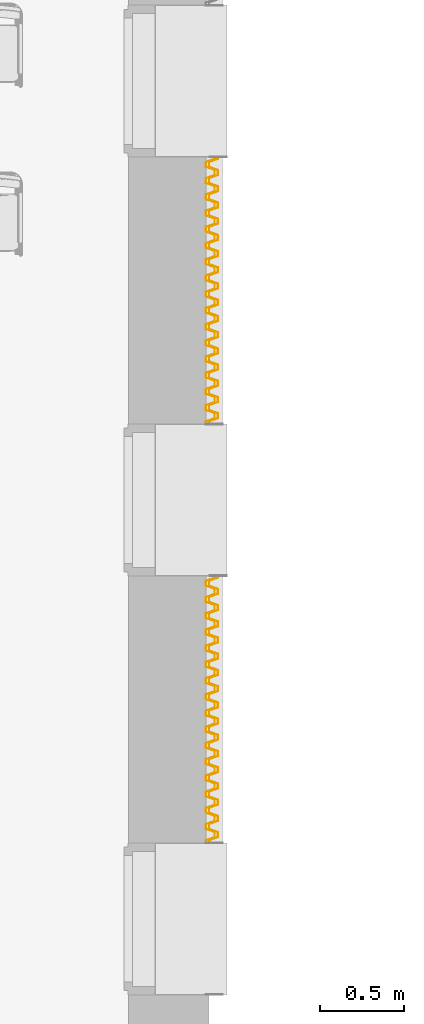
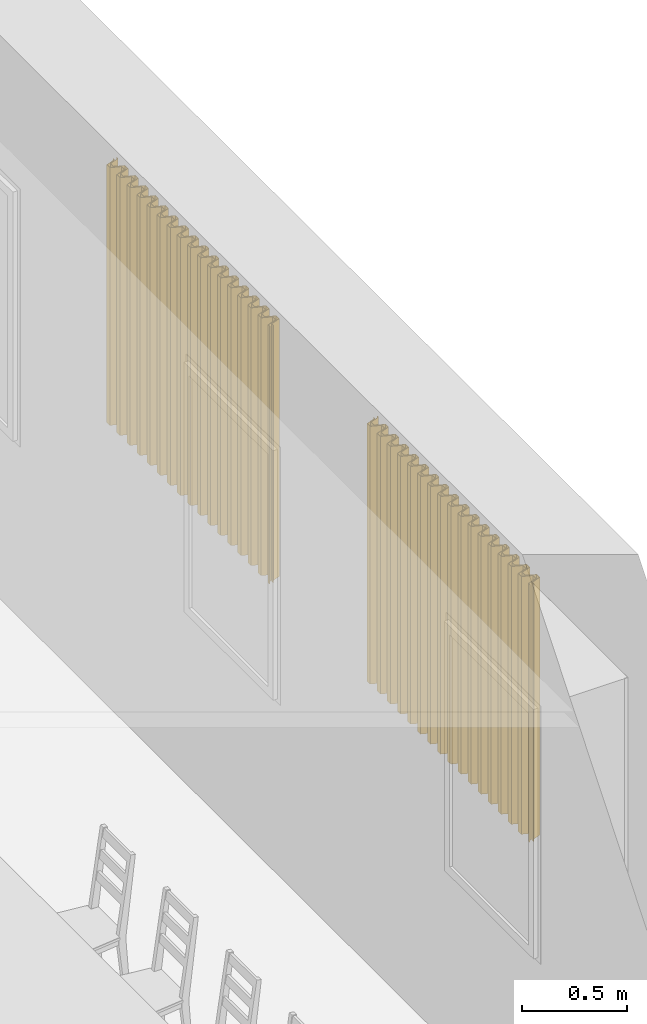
# One storey, part 82 of 91: 4 coverings.
"""IFC2X3 building model written with IfcOpenShell, lengths in metres."""

from ifc_helpers import new_model, entity, si_unit, converted_unit, derived_unit, money_unit, direction, frame, origin_with_axes, place, context, subcontext, project, spatial, faceted_brep, source, transform, mapped, material, type_object, element, save


model = new_model("IFC2X3")

# Units and contexts
model_context = context("Model", 3, precision=1e-05, world=origin_with_axes(), true_north=direction((0.0, 1.0)))
body_context = subcontext(model_context, "Body", "Model", "MODEL_VIEW")
ifc_project = project(units=[si_unit("LENGTHUNIT", "METRE"), si_unit("AREAUNIT", "SQUARE_METRE"), si_unit("VOLUMEUNIT", "CUBIC_METRE"), converted_unit("PLANEANGLEUNIT", "DEGREE", entity("IfcPlaneAngleMeasure", 0.0174532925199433), si_unit("PLANEANGLEUNIT", "RADIAN"), dimensions=[0, 0, 0, 0, 0, 0, 0]), money_unit("EUR"), converted_unit("TIMEUNIT", "Year", entity("IfcTimeMeasure", 31557600.0), si_unit("TIMEUNIT", "SECOND"), dimensions=[0, 0, 1, 0, 0, 0, 0]), si_unit("MASSUNIT", "GRAM", prefix="KILO"), si_unit("THERMODYNAMICTEMPERATUREUNIT", "DEGREE_CELSIUS"), si_unit("LUMINOUSINTENSITYUNIT", "LUMEN"), si_unit("ENERGYUNIT", "JOULE", prefix="MEGA"), derived_unit("THERMALCONDUCTANCEUNIT", [(si_unit("POWERUNIT", "WATT"), 1), (si_unit("LENGTHUNIT", "METRE"), -1), (si_unit("THERMODYNAMICTEMPERATUREUNIT", "KELVIN"), -1)]), derived_unit("SPECIFICHEATCAPACITYUNIT", [(si_unit("ENERGYUNIT", "JOULE"), 1), (si_unit("MASSUNIT", "GRAM", prefix="KILO"), -1), (si_unit("THERMODYNAMICTEMPERATUREUNIT", "KELVIN"), -1)]), derived_unit("MASSDENSITYUNIT", [(si_unit("MASSUNIT", "GRAM", prefix="KILO"), 1), (si_unit("VOLUMEUNIT", "CUBIC_METRE"), -1)])], contexts=[model_context])

# Site, building, storey
site_placement = place(None, origin_with_axes())
site = spatial("IfcSite", under=ifc_project, at=site_placement, Name="Site", CompositionType="ELEMENT")
building_placement = place(site_placement, origin_with_axes())
building = spatial("IfcBuilding", under=site, at=building_placement, Name="Bâtiment", CompositionType="ELEMENT")
storey_placement = place(building_placement, origin_with_axes())
storey = spatial("IfcBuildingStorey", under=building, at=storey_placement, Name="RDC", CompositionType="ELEMENT", Elevation=0.0)

# Coverings
ifc_material = material(Name="Métal - Acier")
covering_type = type_object("IfcCoveringType", Name="Tôle profilée 27", PredefinedType="NOTDEFINED")
shared_shape = source(origin_with_axes(), body_context, "Body", "Brep", [
    faceted_brep([(0.0, 0.0, 0.0), (0.0, 0.0, 1.498499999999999), (0.0, 0.01500000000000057, 1.498499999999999), (0.0, 0.01500000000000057, 0.0), (0.002, 0.0, 0.0), (0.002, 0.0, 1.498499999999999), (0.001999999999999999, 0.01361121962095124, 1.498499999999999), (0.05399999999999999, 0.03299999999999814, 1.498499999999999), (0.05399999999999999, 0.06299999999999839, 1.498499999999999), (0.001999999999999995, 0.08238878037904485, 1.498499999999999), (0.001999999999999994, 0.1096112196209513, 1.498499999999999), (0.05399999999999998, 0.1289999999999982, 1.498499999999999), (0.05399999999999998, 0.1589999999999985, 1.498499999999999), (0.001999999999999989, 0.1783887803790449, 1.498499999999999), (0.001999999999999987, 0.2056112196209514, 1.498499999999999), (0.05399999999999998, 0.2249999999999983, 1.498499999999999), (0.05399999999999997, 0.2549999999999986, 1.498499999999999), (0.001999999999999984, 0.274388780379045, 1.498499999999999), (0.001999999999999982, 0.3016112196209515, 1.498499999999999), (0.05399999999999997, 0.3209999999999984, 1.498499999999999), (0.05399999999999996, 0.3509999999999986, 1.498499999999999), (0.001999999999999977, 0.3703887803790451, 1.498499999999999), (0.001999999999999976, 0.3976112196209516, 1.498499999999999), (0.05399999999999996, 0.4169999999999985, 1.498499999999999), (0.05399999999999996, 0.4469999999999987, 1.498499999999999), (0.001999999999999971, 0.4663887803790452, 1.498499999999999), (0.00199999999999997, 0.4936112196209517, 1.498499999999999), (0.05399999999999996, 0.5129999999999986, 1.498499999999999), (0.05399999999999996, 0.5429999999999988, 1.498499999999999), (0.001999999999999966, 0.5623887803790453, 1.498499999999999), (0.001999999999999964, 0.5896112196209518, 1.498499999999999), (0.05399999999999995, 0.6089999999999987, 1.498499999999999), (0.05399999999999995, 0.6389999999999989, 1.498499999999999), (0.00199999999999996, 0.6583887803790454, 1.498499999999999), (0.001999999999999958, 0.6856112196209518, 1.498499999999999), (0.05399999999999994, 0.7049999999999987, 1.498499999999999), (0.05399999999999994, 0.734999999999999, 1.498499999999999), (0.001999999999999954, 0.7543887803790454, 1.498499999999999), (0.001999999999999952, 0.7816112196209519, 1.498499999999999), (0.05399999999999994, 0.8009999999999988, 1.498499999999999), (0.05399999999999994, 0.8309999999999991, 1.498499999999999), (0.001999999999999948, 0.8503887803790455, 1.498499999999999), (0.001999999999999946, 0.877611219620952, 1.498499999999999), (0.05399999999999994, 0.8969999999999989, 1.498499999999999), (0.05399999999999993, 0.9269999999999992, 1.498499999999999), (0.001999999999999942, 0.9463887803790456, 1.498499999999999), (0.001999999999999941, 0.9736112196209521, 1.498499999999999), (0.05399999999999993, 0.992999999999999, 1.498499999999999), (0.05399999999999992, 1.022999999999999, 1.498499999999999), (0.001999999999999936, 1.042388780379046, 1.498499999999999), (0.001999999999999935, 1.069611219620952, 1.498499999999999), (0.05399999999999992, 1.088999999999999, 1.498499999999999), (0.05399999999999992, 1.118999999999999, 1.498499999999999), (0.001999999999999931, 1.138388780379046, 1.498499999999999), (0.001999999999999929, 1.165611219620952, 1.498499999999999), (0.05399999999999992, 1.184999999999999, 1.498499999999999), (0.05399999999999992, 1.214999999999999, 1.498499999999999), (0.001999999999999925, 1.234388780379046, 1.498499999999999), (0.001999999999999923, 1.261611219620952, 1.498499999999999), (0.05399999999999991, 1.280999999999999, 1.498499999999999), (0.05399999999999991, 1.310999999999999, 1.498499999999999), (0.001999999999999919, 1.330388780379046, 1.498499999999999), (0.001999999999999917, 1.357611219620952, 1.498499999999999), (0.0539999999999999, 1.376999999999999, 1.498499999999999), (0.0539999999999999, 1.407, 1.498499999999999), (0.001999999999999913, 1.426388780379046, 1.498499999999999), (0.001999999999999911, 1.453611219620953, 1.498499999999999), (0.0539999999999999, 1.472999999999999, 1.498499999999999), (0.0539999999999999, 1.503, 1.498499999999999), (0.001999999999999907, 1.522388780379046, 1.498499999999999), (0.001999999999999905, 1.549611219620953, 1.498499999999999), (0.0539999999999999, 1.569, 1.498499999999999), (0.0539999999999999, 1.579999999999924, 1.498499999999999), (0.0519999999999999, 1.579999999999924, 1.498499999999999), (0.0519999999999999, 1.570388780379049, 1.498499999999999), (0.0, 1.551000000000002, 1.498499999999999), (0.0, 1.521000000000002, 1.498499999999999), (0.0519999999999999, 1.501611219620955, 1.498499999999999), (0.05199999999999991, 1.474388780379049, 1.498499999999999), (0.0, 1.455000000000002, 1.498499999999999), (0.0, 1.425000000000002, 1.498499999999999), (0.05199999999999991, 1.405611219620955, 1.498499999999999), (0.05199999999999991, 1.378388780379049, 1.498499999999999), (0.0, 1.359000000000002, 1.498499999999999), (0.0, 1.329000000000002, 1.498499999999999), (0.05199999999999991, 1.309611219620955, 1.498499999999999), (0.05199999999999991, 1.282388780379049, 1.498499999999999), (0.0, 1.263000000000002, 1.498499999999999), (0.0, 1.233000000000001, 1.498499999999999), (0.05199999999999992, 1.213611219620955, 1.498499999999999), (0.05199999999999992, 1.186388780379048, 1.498499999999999), (0.0, 1.167000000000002, 1.498499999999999), (0.0, 1.137000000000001, 1.498499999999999), (0.05199999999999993, 1.117611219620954, 1.498499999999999), (0.05199999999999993, 1.090388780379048, 1.498499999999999), (0.0, 1.071000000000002, 1.498499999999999), (0.0, 1.041000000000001, 1.498499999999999), (0.05199999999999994, 1.021611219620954, 1.498499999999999), (0.05199999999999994, 0.9943887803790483, 1.498499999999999), (0.0, 0.9750000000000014, 1.498499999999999), (0.0, 0.9450000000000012, 1.498499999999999), (0.05199999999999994, 0.9256112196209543, 1.498499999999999), (0.05199999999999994, 0.8983887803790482, 1.498499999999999), (0.0, 0.8790000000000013, 1.498499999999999), (0.0, 0.8490000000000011, 1.498499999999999), (0.05199999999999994, 0.8296112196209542, 1.498499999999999), (0.05199999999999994, 0.8023887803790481, 1.498499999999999), (0.0, 0.7830000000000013, 1.498499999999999), (0.0, 0.753000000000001, 1.498499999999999), (0.05199999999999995, 0.7336112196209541, 1.498499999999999), (0.05199999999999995, 0.7063887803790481, 1.498499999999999), (0.0, 0.6870000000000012, 1.498499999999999), (0.0, 0.6570000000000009, 1.498499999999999), (0.05199999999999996, 0.637611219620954, 1.498499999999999), (0.05199999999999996, 0.610388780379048, 1.498499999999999), (0.0, 0.5910000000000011, 1.498499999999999), (0.0, 0.5610000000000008, 1.498499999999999), (0.05199999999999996, 0.5416112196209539, 1.498499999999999), (0.05199999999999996, 0.5143887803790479, 1.498499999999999), (0.0, 0.495000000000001, 1.498499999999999), (0.0, 0.4650000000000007, 1.498499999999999), (0.05199999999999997, 0.4456112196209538, 1.498499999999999), (0.05199999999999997, 0.4183887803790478, 1.498499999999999), (0.0, 0.3990000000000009, 1.498499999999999), (0.0, 0.3690000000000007, 1.498499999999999), (0.05199999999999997, 0.3496112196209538, 1.498499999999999), (0.05199999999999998, 0.3223887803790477, 1.498499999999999), (0.0, 0.3030000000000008, 1.498499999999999), (0.0, 0.2730000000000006, 1.498499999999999), (0.05199999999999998, 0.2536112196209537, 1.498499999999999), (0.05199999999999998, 0.2263887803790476, 1.498499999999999), (0.0, 0.2070000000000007, 1.498499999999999), (0.0, 0.1770000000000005, 1.498499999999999), (0.05199999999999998, 0.1576112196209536, 1.498499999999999), (0.05199999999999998, 0.1303887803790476, 1.498499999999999), (0.0, 0.1110000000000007, 1.498499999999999), (0.0, 0.0810000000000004, 1.498499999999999), (0.05199999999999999, 0.06161121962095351, 1.498499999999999), (0.05199999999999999, 0.03438878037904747, 1.498499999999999), (0.05199999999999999, 0.03438878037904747, 0.0), (0.05199999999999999, 0.06161121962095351, 0.0), (0.0, 0.0810000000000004, 0.0), (0.0, 0.1110000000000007, 0.0), (0.05199999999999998, 0.1303887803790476, 0.0), (0.05199999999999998, 0.1576112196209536, 0.0), (0.0, 0.1770000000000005, 0.0), (0.0, 0.2070000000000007, 0.0), (0.05199999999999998, 0.2263887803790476, 0.0), (0.05199999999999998, 0.2536112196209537, 0.0), (0.0, 0.2730000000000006, 0.0), (0.0, 0.3030000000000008, 0.0), (0.05199999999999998, 0.3223887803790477, 0.0), (0.05199999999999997, 0.3496112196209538, 0.0), (0.0, 0.3690000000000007, 0.0), (0.0, 0.3990000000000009, 0.0), (0.05199999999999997, 0.4183887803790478, 0.0), (0.05199999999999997, 0.4456112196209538, 0.0), (0.0, 0.4650000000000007, 0.0), (0.0, 0.495000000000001, 0.0), (0.05199999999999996, 0.5143887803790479, 0.0), (0.05199999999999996, 0.5416112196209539, 0.0), (0.0, 0.5610000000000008, 0.0), (0.0, 0.5910000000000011, 0.0), (0.05199999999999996, 0.610388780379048, 0.0), (0.05199999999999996, 0.637611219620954, 0.0), (0.0, 0.6570000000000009, 0.0), (0.0, 0.6870000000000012, 0.0), (0.05199999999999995, 0.7063887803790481, 0.0), (0.05199999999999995, 0.7336112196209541, 0.0), (0.0, 0.753000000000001, 0.0), (0.0, 0.7830000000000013, 0.0), (0.05199999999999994, 0.8023887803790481, 0.0), (0.05199999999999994, 0.8296112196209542, 0.0), (0.0, 0.8490000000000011, 0.0), (0.0, 0.8790000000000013, 0.0), (0.05199999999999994, 0.8983887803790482, 0.0), (0.05199999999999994, 0.9256112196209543, 0.0), (0.0, 0.9450000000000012, 0.0), (0.0, 0.9750000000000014, 0.0), (0.05199999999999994, 0.9943887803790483, 0.0), (0.05199999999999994, 1.021611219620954, 0.0), (0.0, 1.041000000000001, 0.0), (0.0, 1.071000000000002, 0.0), (0.05199999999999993, 1.090388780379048, 0.0), (0.05199999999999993, 1.117611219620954, 0.0), (0.0, 1.137000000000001, 0.0), (0.0, 1.167000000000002, 0.0), (0.05199999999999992, 1.186388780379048, 0.0), (0.05199999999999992, 1.213611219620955, 0.0), (0.0, 1.233000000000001, 0.0), (0.0, 1.263000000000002, 0.0), (0.05199999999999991, 1.282388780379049, 0.0), (0.05199999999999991, 1.309611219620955, 0.0), (0.0, 1.329000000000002, 0.0), (0.0, 1.359000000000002, 0.0), (0.05199999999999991, 1.378388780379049, 0.0), (0.05199999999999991, 1.405611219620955, 0.0), (0.0, 1.425000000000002, 0.0), (0.0, 1.455000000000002, 0.0), (0.05199999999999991, 1.474388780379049, 0.0), (0.0519999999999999, 1.501611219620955, 0.0), (0.0, 1.521000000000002, 0.0), (0.0, 1.551000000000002, 0.0), (0.0519999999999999, 1.570388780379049, 0.0), (0.0519999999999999, 1.579999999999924, 0.0), (0.0539999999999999, 1.579999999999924, 0.0), (0.0539999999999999, 1.569, 0.0), (0.001999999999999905, 1.549611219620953, 0.0), (0.001999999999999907, 1.522388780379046, 0.0), (0.0539999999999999, 1.503, 0.0), (0.0539999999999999, 1.472999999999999, 0.0), (0.001999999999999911, 1.453611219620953, 0.0), (0.001999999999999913, 1.426388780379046, 0.0), (0.0539999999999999, 1.407, 0.0), (0.0539999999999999, 1.376999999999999, 0.0), (0.001999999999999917, 1.357611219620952, 0.0), (0.001999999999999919, 1.330388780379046, 0.0), (0.05399999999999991, 1.310999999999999, 0.0), (0.05399999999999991, 1.280999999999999, 0.0), (0.001999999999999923, 1.261611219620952, 0.0), (0.001999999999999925, 1.234388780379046, 0.0), (0.05399999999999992, 1.214999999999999, 0.0), (0.05399999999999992, 1.184999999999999, 0.0), (0.001999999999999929, 1.165611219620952, 0.0), (0.001999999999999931, 1.138388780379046, 0.0), (0.05399999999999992, 1.118999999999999, 0.0), (0.05399999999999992, 1.088999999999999, 0.0), (0.001999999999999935, 1.069611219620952, 0.0), (0.001999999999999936, 1.042388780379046, 0.0), (0.05399999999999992, 1.022999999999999, 0.0), (0.05399999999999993, 0.992999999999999, 0.0), (0.001999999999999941, 0.9736112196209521, 0.0), (0.001999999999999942, 0.9463887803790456, 0.0), (0.05399999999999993, 0.9269999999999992, 0.0), (0.05399999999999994, 0.8969999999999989, 0.0), (0.001999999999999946, 0.877611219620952, 0.0), (0.001999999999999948, 0.8503887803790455, 0.0), (0.05399999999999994, 0.8309999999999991, 0.0), (0.05399999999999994, 0.8009999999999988, 0.0), (0.001999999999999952, 0.7816112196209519, 0.0), (0.001999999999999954, 0.7543887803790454, 0.0), (0.05399999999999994, 0.734999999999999, 0.0), (0.05399999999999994, 0.7049999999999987, 0.0), (0.001999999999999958, 0.6856112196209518, 0.0), (0.00199999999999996, 0.6583887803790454, 0.0), (0.05399999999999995, 0.6389999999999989, 0.0), (0.05399999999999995, 0.6089999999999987, 0.0), (0.001999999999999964, 0.5896112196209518, 0.0), (0.001999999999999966, 0.5623887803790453, 0.0), (0.05399999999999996, 0.5429999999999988, 0.0), (0.05399999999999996, 0.5129999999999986, 0.0), (0.00199999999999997, 0.4936112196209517, 0.0), (0.001999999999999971, 0.4663887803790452, 0.0), (0.05399999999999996, 0.4469999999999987, 0.0), (0.05399999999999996, 0.4169999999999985, 0.0), (0.001999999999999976, 0.3976112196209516, 0.0), (0.001999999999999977, 0.3703887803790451, 0.0), (0.05399999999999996, 0.3509999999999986, 0.0), (0.05399999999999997, 0.3209999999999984, 0.0), (0.001999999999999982, 0.3016112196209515, 0.0), (0.001999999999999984, 0.274388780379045, 0.0), (0.05399999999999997, 0.2549999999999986, 0.0), (0.05399999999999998, 0.2249999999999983, 0.0), (0.001999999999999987, 0.2056112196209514, 0.0), (0.001999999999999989, 0.1783887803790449, 0.0), (0.05399999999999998, 0.1589999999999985, 0.0), (0.05399999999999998, 0.1289999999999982, 0.0), (0.001999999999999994, 0.1096112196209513, 0.0), (0.001999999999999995, 0.08238878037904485, 0.0), (0.05399999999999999, 0.06299999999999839, 0.0), (0.05399999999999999, 0.03299999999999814, 0.0), (0.001999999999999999, 0.01361121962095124, 0.0)], [[[0, 1, 2, 3]], [[0, 4, 5, 1]], [[2, 1, 5, 6, 7, 8, 9, 10, 11, 12, 13, 14, 15, 16, 17, 18, 19, 20, 21, 22, 23, 24, 25, 26, 27, 28, 29, 30, 31, 32, 33, 34, 35, 36, 37, 38, 39, 40, 41, 42, 43, 44, 45, 46, 47, 48, 49, 50, 51, 52, 53, 54, 55, 56, 57, 58, 59, 60, 61, 62, 63, 64, 65, 66, 67, 68, 69, 70, 71, 72, 73, 74, 75, 76, 77, 78, 79, 80, 81, 82, 83, 84, 85, 86, 87, 88, 89, 90, 91, 92, 93, 94, 95, 96, 97, 98, 99, 100, 101, 102, 103, 104, 105, 106, 107, 108, 109, 110, 111, 112, 113, 114, 115, 116, 117, 118, 119, 120, 121, 122, 123, 124, 125, 126, 127, 128, 129, 130, 131, 132, 133, 134, 135, 136, 137, 138]], [[3, 2, 138, 139]], [[4, 0, 3, 139, 140, 141, 142, 143, 144, 145, 146, 147, 148, 149, 150, 151, 152, 153, 154, 155, 156, 157, 158, 159, 160, 161, 162, 163, 164, 165, 166, 167, 168, 169, 170, 171, 172, 173, 174, 175, 176, 177, 178, 179, 180, 181, 182, 183, 184, 185, 186, 187, 188, 189, 190, 191, 192, 193, 194, 195, 196, 197, 198, 199, 200, 201, 202, 203, 204, 205, 206, 207, 208, 209, 210, 211, 212, 213, 214, 215, 216, 217, 218, 219, 220, 221, 222, 223, 224, 225, 226, 227, 228, 229, 230, 231, 232, 233, 234, 235, 236, 237, 238, 239, 240, 241, 242, 243, 244, 245, 246, 247, 248, 249, 250, 251, 252, 253, 254, 255, 256, 257, 258, 259, 260, 261, 262, 263, 264, 265, 266, 267, 268, 269, 270, 271]], [[271, 6, 5, 4]], [[270, 7, 6, 271]], [[269, 8, 7, 270]], [[268, 9, 8, 269]], [[267, 10, 9, 268]], [[266, 11, 10, 267]], [[265, 12, 11, 266]], [[264, 13, 12, 265]], [[263, 14, 13, 264]], [[262, 15, 14, 263]], [[261, 16, 15, 262]], [[260, 17, 16, 261]], [[259, 18, 17, 260]], [[258, 19, 18, 259]], [[257, 20, 19, 258]], [[256, 21, 20, 257]], [[255, 22, 21, 256]], [[254, 23, 22, 255]], [[253, 24, 23, 254]], [[252, 25, 24, 253]], [[251, 26, 25, 252]], [[250, 27, 26, 251]], [[249, 28, 27, 250]], [[248, 29, 28, 249]], [[247, 30, 29, 248]], [[246, 31, 30, 247]], [[245, 32, 31, 246]], [[244, 33, 32, 245]], [[243, 34, 33, 244]], [[242, 35, 34, 243]], [[241, 36, 35, 242]], [[240, 37, 36, 241]], [[239, 38, 37, 240]], [[238, 39, 38, 239]], [[237, 40, 39, 238]], [[236, 41, 40, 237]], [[235, 42, 41, 236]], [[234, 43, 42, 235]], [[233, 44, 43, 234]], [[232, 45, 44, 233]], [[231, 46, 45, 232]], [[230, 47, 46, 231]], [[229, 48, 47, 230]], [[228, 49, 48, 229]], [[227, 50, 49, 228]], [[226, 51, 50, 227]], [[225, 52, 51, 226]], [[224, 53, 52, 225]], [[223, 54, 53, 224]], [[222, 55, 54, 223]], [[221, 56, 55, 222]], [[220, 57, 56, 221]], [[219, 58, 57, 220]], [[218, 59, 58, 219]], [[217, 60, 59, 218]], [[216, 61, 60, 217]], [[215, 62, 61, 216]], [[214, 63, 62, 215]], [[213, 64, 63, 214]], [[212, 65, 64, 213]], [[211, 66, 65, 212]], [[210, 67, 66, 211]], [[209, 68, 67, 210]], [[208, 69, 68, 209]], [[207, 70, 69, 208]], [[206, 71, 70, 207]], [[205, 72, 71, 206]], [[204, 73, 72, 205]], [[203, 74, 73, 204]], [[202, 75, 74, 203]], [[201, 76, 75, 202]], [[200, 77, 76, 201]], [[199, 78, 77, 200]], [[198, 79, 78, 199]], [[197, 80, 79, 198]], [[196, 81, 80, 197]], [[195, 82, 81, 196]], [[194, 83, 82, 195]], [[193, 84, 83, 194]], [[192, 85, 84, 193]], [[191, 86, 85, 192]], [[190, 87, 86, 191]], [[189, 88, 87, 190]], [[188, 89, 88, 189]], [[187, 90, 89, 188]], [[186, 91, 90, 187]], [[185, 92, 91, 186]], [[184, 93, 92, 185]], [[183, 94, 93, 184]], [[182, 95, 94, 183]], [[181, 96, 95, 182]], [[180, 97, 96, 181]], [[179, 98, 97, 180]], [[178, 99, 98, 179]], [[177, 100, 99, 178]], [[176, 101, 100, 177]], [[175, 102, 101, 176]], [[174, 103, 102, 175]], [[173, 104, 103, 174]], [[172, 105, 104, 173]], [[171, 106, 105, 172]], [[170, 107, 106, 171]], [[169, 108, 107, 170]], [[168, 109, 108, 169]], [[167, 110, 109, 168]], [[166, 111, 110, 167]], [[165, 112, 111, 166]], [[164, 113, 112, 165]], [[163, 114, 113, 164]], [[162, 115, 114, 163]], [[161, 116, 115, 162]], [[160, 117, 116, 161]], [[159, 118, 117, 160]], [[158, 119, 118, 159]], [[157, 120, 119, 158]], [[156, 121, 120, 157]], [[155, 122, 121, 156]], [[154, 123, 122, 155]], [[153, 124, 123, 154]], [[152, 125, 124, 153]], [[151, 126, 125, 152]], [[150, 127, 126, 151]], [[149, 128, 127, 150]], [[148, 129, 128, 149]], [[147, 130, 129, 148]], [[146, 131, 130, 147]], [[145, 132, 131, 146]], [[144, 133, 132, 145]], [[143, 134, 133, 144]], [[142, 135, 134, 143]], [[141, 136, 135, 142]], [[140, 137, 136, 141]], [[139, 138, 137, 140]]]),
])
for number, where, z_axis, x_axis, name in (
    (1, (60.258, -22.27222254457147, 1.0), (0.0, 0.0, 1.0), (0.9999999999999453, 3.309421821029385e-07, 0.0), "PLACE STATIONNEMENT PMR"),
    (2, (60.258, -24.75222254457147, 1.0), (0.0, 0.0, 1.0), (0.9999999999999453, 3.309421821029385e-07, 0.0), "PLACE STATIONNEMENT PMR"),
    (3, (60.27800000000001, -22.27222254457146, 1.000000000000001), (0.0, 0.0, 1.0), (0.9999999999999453, 3.309421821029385e-07, 0.0), "PLACE STATIONNEMENT PMR"),
    (4, (60.27800000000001, -24.75222254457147, 1.000000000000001), (0.0, 0.0, 1.0), (0.9999999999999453, 3.309421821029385e-07, 0.0), "PLACE STATIONNEMENT PMR"),
):
    element("IfcCovering", number, at=place(storey_placement, frame(where, z_axis=z_axis, x_axis=x_axis)), inside=storey, type_object=covering_type, material=ifc_material, Name=name, PredefinedType="NOTDEFINED", context=body_context, shape_type="MappedRepresentation", body=[
        mapped(shared_shape, transform((0.0, 0.0, 0.0))),
    ])

save(model, "model.ifc")
